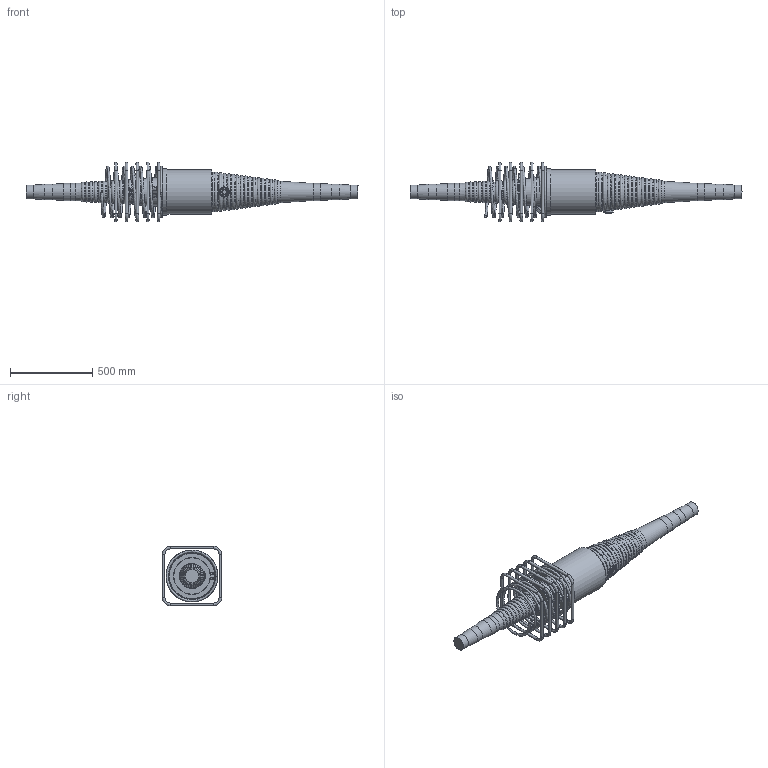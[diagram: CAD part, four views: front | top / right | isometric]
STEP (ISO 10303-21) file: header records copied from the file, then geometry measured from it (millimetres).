
FILE_DESCRIPTION(/* description */ (''),/* implementation_level */ '2;1');
FILE_NAME(/* name */ 'Z:\04 Publications\05 Give-out\BBR\6_3D_Models\BBR VT CONA CMI\BBR VT CONA CMI BT\01506\BBR VT CONA CMI BT 1506_Coupler H Assembly_CS-34,28.stp',/* time_stamp */ '2017-05-05T08:59:16+02:00',/* author */ ('IP'),/* organization */ (''),/* preprocessor_version */ 'ST-DEVELOPER v16.1',/* originating_system */ 'Autodesk Inventor 2016',/* authorisation */ '');
FILE_SCHEMA (('AUTOMOTIVE_DESIGN { 1 0 10303 214 3 1 1 }'));
Length unit declared in the file: millimetre
Products named in the file (1): BBR VT CONA CMI BT 1506_Coupler H Assembly_CS-34,28
Bounding box: 2015.13 x 360 x 360 mm (x, y, z)
Volume: 47286350.4 mm3; surface area: 1811942.9 mm2
Topology: 7 solids, 8 shells, 974 faces, 2483 edges, 1574 vertices
Faces by surface type: bspline 389, plane 309, torus 128, cylinder 104, cone 34, sphere 10
Full cylindrical faces by diameter (mm): 16 x20, 34 x2, 57 x2, 84 x2, 94 x2, 104 x2, 164 x1, 218 x1, 223.017 x1, 273 x1, 280 x1
Entity records: 39600 total; most frequent: CARTESIAN_POINT 18760, ORIENTED_EDGE 4572, DIRECTION 3253, EDGE_CURVE 2286, VERTEX_POINT 1562, EDGE_LOOP 1220, AXIS2_PLACEMENT_3D 1171, FACE_OUTER_BOUND 974
